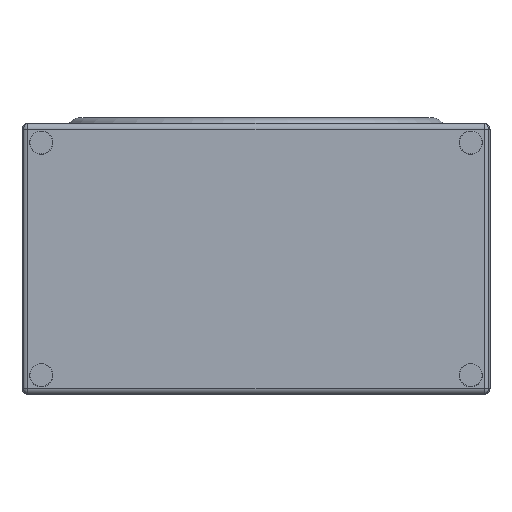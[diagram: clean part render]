
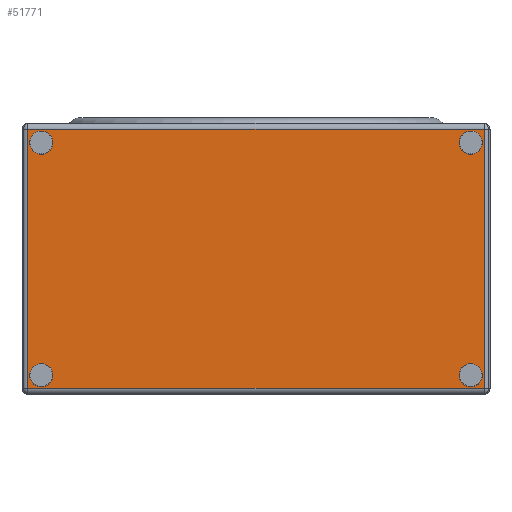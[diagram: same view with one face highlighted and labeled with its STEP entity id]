
A CAD part, front view. The second image highlights one B-rep face of the part: STEP entity #51771.
In plain terms, the highlighted planar face has unit normal (0, -1, 0).
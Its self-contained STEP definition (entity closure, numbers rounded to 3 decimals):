
#1264=FACE_BOUND('',#17729,.T.);
#1265=FACE_BOUND('',#17730,.T.);
#1266=FACE_BOUND('',#17731,.T.);
#1267=FACE_BOUND('',#17732,.T.);
#1629=PLANE('',#55264);
#3357=CIRCLE('',#55258,7.25);
#3360=CIRCLE('',#55262,7.25);
#3362=CIRCLE('',#55265,7.25);
#3363=CIRCLE('',#55266,7.25);
#5444=LINE('',#78193,#10014);
#5445=LINE('',#78201,#10015);
#5450=LINE('',#78226,#10020);
#5451=LINE('',#78227,#10021);
#10014=VECTOR('',#61092,1000.);
#10015=VECTOR('',#61103,1000.);
#10020=VECTOR('',#61136,1000.);
#10021=VECTOR('',#61137,1000.);
#14575=FACE_OUTER_BOUND('',#17728,.T.);
#17728=EDGE_LOOP('',(#36287,#36288,#36289,#36290));
#17729=EDGE_LOOP('',(#36291));
#17730=EDGE_LOOP('',(#36292));
#17731=EDGE_LOOP('',(#36293));
#17732=EDGE_LOOP('',(#36294));
#22618=VERTEX_POINT('',#78185);
#22619=VERTEX_POINT('',#78189);
#22620=VERTEX_POINT('',#78195);
#22621=VERTEX_POINT('',#78199);
#22624=VERTEX_POINT('',#78213);
#22627=VERTEX_POINT('',#78221);
#22628=VERTEX_POINT('',#78228);
#22629=VERTEX_POINT('',#78230);
#27951=EDGE_CURVE('',#22618,#22619,#5444,.T.);
#27955=EDGE_CURVE('',#22620,#22621,#5445,.T.);
#27961=EDGE_CURVE('',#22624,#22624,#3357,.T.);
#27965=EDGE_CURVE('',#22627,#22627,#3360,.T.);
#27967=EDGE_CURVE('',#22621,#22618,#5450,.T.);
#27968=EDGE_CURVE('',#22619,#22620,#5451,.T.);
#27969=EDGE_CURVE('',#22628,#22628,#3362,.T.);
#27970=EDGE_CURVE('',#22629,#22629,#3363,.T.);
#36287=ORIENTED_EDGE('',*,*,#27967,.T.);
#36288=ORIENTED_EDGE('',*,*,#27951,.T.);
#36289=ORIENTED_EDGE('',*,*,#27968,.T.);
#36290=ORIENTED_EDGE('',*,*,#27955,.T.);
#36291=ORIENTED_EDGE('',*,*,#27965,.F.);
#36292=ORIENTED_EDGE('',*,*,#27969,.F.);
#36293=ORIENTED_EDGE('',*,*,#27961,.F.);
#36294=ORIENTED_EDGE('',*,*,#27970,.F.);
#51771=ADVANCED_FACE('',(#14575,#1264,#1265,#1266,#1267),#1629,.F.);
#55258=AXIS2_PLACEMENT_3D('',#78215,#61121,#61122);
#55262=AXIS2_PLACEMENT_3D('',#78223,#61130,#61131);
#55264=AXIS2_PLACEMENT_3D('',#78225,#61134,#61135);
#55265=AXIS2_PLACEMENT_3D('',#78229,#61138,#61139);
#55266=AXIS2_PLACEMENT_3D('',#78231,#61140,#61141);
#61092=DIRECTION('',(0.,0.,-1.));
#61103=DIRECTION('',(0.,0.,1.));
#61121=DIRECTION('center_axis',(0.,-1.,0.));
#61122=DIRECTION('ref_axis',(0.,0.,1.));
#61130=DIRECTION('center_axis',(0.,-1.,0.));
#61131=DIRECTION('ref_axis',(0.,0.,1.));
#61134=DIRECTION('center_axis',(0.,1.,0.));
#61135=DIRECTION('ref_axis',(-1.,0.,0.));
#61136=DIRECTION('',(-1.,0.,0.));
#61137=DIRECTION('',(1.,0.,0.));
#61138=DIRECTION('center_axis',(0.,-1.,0.));
#61139=DIRECTION('ref_axis',(0.,0.,1.));
#61140=DIRECTION('center_axis',(0.,-1.,0.));
#61141=DIRECTION('ref_axis',(0.,0.,1.));
#78185=CARTESIAN_POINT('',(-463.,-600.,538.));
#78189=CARTESIAN_POINT('',(-463.,-600.,12.));
#78193=CARTESIAN_POINT('',(-463.,-600.,550.));
#78195=CARTESIAN_POINT('',(463.,-600.,12.));
#78199=CARTESIAN_POINT('',(463.,-600.,538.));
#78201=CARTESIAN_POINT('',(463.,-600.,550.));
#78213=CARTESIAN_POINT('',(-436.,-600.,31.75));
#78215=CARTESIAN_POINT('Origin',(-436.,-600.,39.));
#78221=CARTESIAN_POINT('',(-436.,-600.,503.75));
#78223=CARTESIAN_POINT('Origin',(-436.,-600.,511.));
#78225=CARTESIAN_POINT('Origin',(475.,-600.,550.));
#78226=CARTESIAN_POINT('',(475.,-600.,538.));
#78227=CARTESIAN_POINT('',(475.,-600.,12.));
#78228=CARTESIAN_POINT('',(436.,-600.,31.75));
#78229=CARTESIAN_POINT('Origin',(436.,-600.,39.));
#78230=CARTESIAN_POINT('',(436.,-600.,503.75));
#78231=CARTESIAN_POINT('Origin',(436.,-600.,511.));
